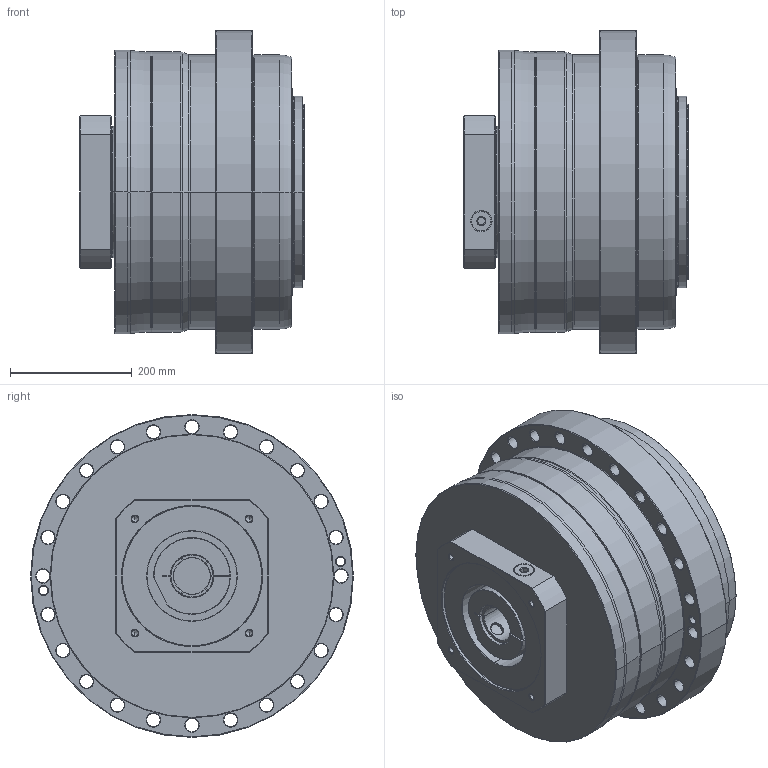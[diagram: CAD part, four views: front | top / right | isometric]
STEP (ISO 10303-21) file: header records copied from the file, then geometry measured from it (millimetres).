
FILE_DESCRIPTION((''),'2;1');
FILE_NAME('AP450_1ST_60-P0409D50101_ASM','2020-12-23T',('d01226'),(''),'PRO/ENGINEER BY PARAMETRIC TECHNOLOGY CORPORATION, 2015240','PRO/ENGINEER BY PARAMETRIC TECHNOLOGY CORPORATION, 2015240','');
FILE_SCHEMA(('CONFIG_CONTROL_DESIGN'));
Length unit declared in the file: millimetre
Products named in the file (9): P0276201003; P0357201103; P1338210001; P0503D00016; P0942201001; P1222200001; P0409D50101; 21711426021; AP450_1ST_60-P0409D50101_ASM
Assembly tree (8 placements, depth 2):
  AP450_1ST_60-P0409D50101_ASM
    P0276201003
    P0357201103
    P1338210001
    P0503D00016
    P0942201001
    P1222200001
    P0409D50101
    21711426021
Bounding box: 368 x 530 x 530 mm (x, y, z)
Volume: 36363826.3 mm3; surface area: 2046944 mm2
Topology: 9 solids, 31 shells, 583 faces, 1351 edges, 828 vertices
Faces by surface type: cylinder 234, cone 172, plane 97, torus 68, bspline 12
Entity records: 21442 total; most frequent: CARTESIAN_POINT 7435, DIRECTION 3213, ORIENTED_EDGE 2598, AXIS2_PLACEMENT_3D 1371, EDGE_CURVE 1343, VERTEX_POINT 828, CIRCLE 773, EDGE_LOOP 723
